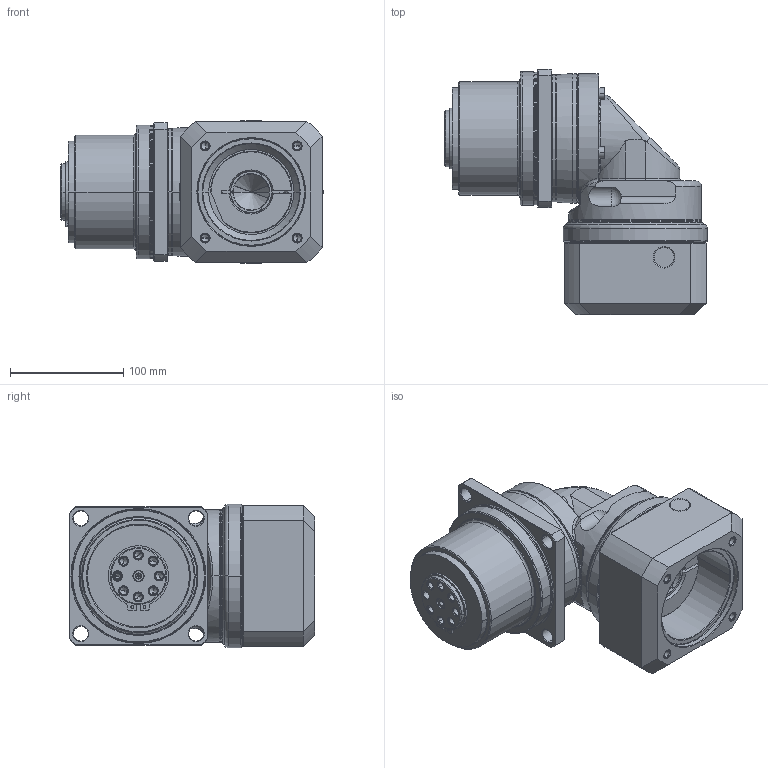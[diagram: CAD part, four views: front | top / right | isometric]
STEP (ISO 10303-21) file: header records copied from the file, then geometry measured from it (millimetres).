
FILE_DESCRIPTION((''),'2;1');
FILE_NAME('PLR120_1ST_32-P0411700101_ASM','2016-06-21T',('d00435'),(''),'PRO/ENGINEER BY PARAMETRIC TECHNOLOGY CORPORATION, 2008410','PRO/ENGINEER BY PARAMETRIC TECHNOLOGY CORPORATION, 2008410','');
FILE_SCHEMA(('CONFIG_CONTROL_DESIGN'));
Length unit declared in the file: millimetre
Products named in the file (10): P0272400001; P1353400001; P0366400001; 22802000029; P1017410001; P1350400301; P0411700101; P0503700010; P0713400301; PLR120_1ST_32-P0411700101_ASM
Assembly tree (9 placements, depth 2):
  PLR120_1ST_32-P0411700101_ASM
    P0272400001
    P1353400001
    P0366400001
    22802000029
    P1017410001
    P1350400301
    P0411700101
    P0503700010
    P0713400301
Bounding box: 231.5 x 216.5 x 127 mm (x, y, z)
Volume: 2455647.2 mm3; surface area: 359123 mm2
Topology: 10 solids, 27 shells, 587 faces, 1371 edges, 823 vertices
Faces by surface type: cylinder 203, cone 158, plane 120, torus 74, bspline 30, sphere 2
Entity records: 19738 total; most frequent: CARTESIAN_POINT 6213, DIRECTION 2992, ORIENTED_EDGE 2590, EDGE_CURVE 1329, AXIS2_PLACEMENT_3D 1264, VERTEX_POINT 823, CIRCLE 680, EDGE_LOOP 672
